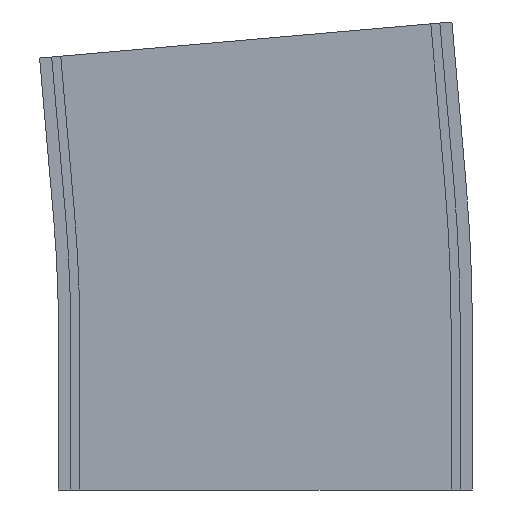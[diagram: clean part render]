
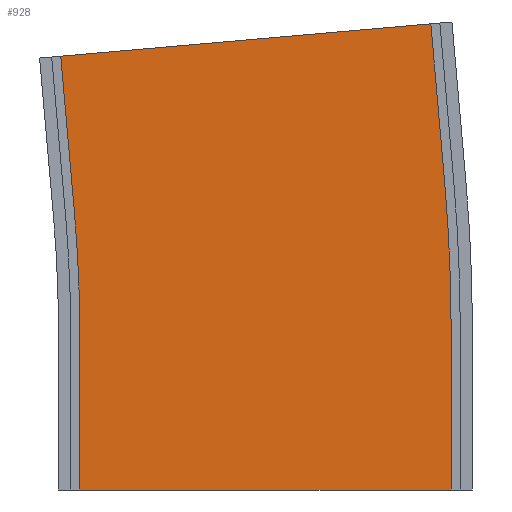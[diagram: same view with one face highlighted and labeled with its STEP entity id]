
A CAD part, left-side view. The second image highlights one B-rep face of the part: STEP entity #928.
In plain terms, the highlighted planar face has unit normal (-1, 0, 0).
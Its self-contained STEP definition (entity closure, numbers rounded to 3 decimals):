
#1 = EDGE_CURVE ( 'NONE', #549, #386, #1368, .T. ) ;
#12 = VECTOR ( 'NONE', #824, 1000. ) ;
#29 = VECTOR ( 'NONE', #670, 1000. ) ;
#32 = CARTESIAN_POINT ( 'NONE',  ( -116.25, -54.539, 153.716 ) ) ;
#62 = VECTOR ( 'NONE', #370, 1000. ) ;
#63 = ORIENTED_EDGE ( 'NONE', *, *, #664, .F. ) ;
#65 = CARTESIAN_POINT ( 'NONE',  ( -116.25, 61.25, 0. ) ) ;
#110 = ORIENTED_EDGE ( 'NONE', *, *, #1331, .T. ) ;
#119 = DIRECTION ( 'NONE',  ( 0., 0., -1. ) ) ;
#129 = VECTOR ( 'NONE', #119, 1000. ) ;
#163 = CARTESIAN_POINT ( 'NONE',  ( -116.25, -59.114, 101.416 ) ) ;
#192 = VERTEX_POINT ( 'NONE', #262 ) ;
#200 = VECTOR ( 'NONE', #1125, 1000. ) ;
#247 = CARTESIAN_POINT ( 'NONE',  ( -116.25, 500., 52.5 ) ) ;
#262 = CARTESIAN_POINT ( 'NONE',  ( -116.25, -61.25, 52.5 ) ) ;
#310 = ORIENTED_EDGE ( 'NONE', *, *, #445, .T. ) ;
#370 = DIRECTION ( 'NONE',  ( 0., -0.996, 0.087 ) ) ;
#386 = VERTEX_POINT ( 'NONE', #32 ) ;
#433 = CARTESIAN_POINT ( 'NONE',  ( -116.25, 67.495, 143.04 ) ) ;
#445 = EDGE_CURVE ( 'NONE', #1154, #507, #654, .T. ) ;
#488 = ORIENTED_EDGE ( 'NONE', *, *, #686, .F. ) ;
#495 = LINE ( 'NONE', #163, #200 ) ;
#507 = VERTEX_POINT ( 'NONE', #65 ) ;
#549 = VERTEX_POINT ( 'NONE', #433 ) ;
#556 = DIRECTION ( 'NONE',  ( 0., 0., 1. ) ) ;
#572 = LINE ( 'NONE', #725, #12 ) ;
#619 = EDGE_CURVE ( 'NONE', #1162, #549, #1166, .T. ) ;
#647 = ORIENTED_EDGE ( 'NONE', *, *, #619, .F. ) ;
#654 = LINE ( 'NONE', #684, #775 ) ;
#664 = EDGE_CURVE ( 'NONE', #192, #813, #1285, .T. ) ;
#670 = DIRECTION ( 'NONE',  ( 0., 0.087, 0.996 ) ) ;
#684 = CARTESIAN_POINT ( 'NONE',  ( -116.25, 61.25, 52.5 ) ) ;
#686 = EDGE_CURVE ( 'NONE', #1154, #1162, #1060, .T. ) ;
#725 = CARTESIAN_POINT ( 'NONE',  ( -116.25, -61.25, 0. ) ) ;
#726 = PLANE ( 'NONE',  #786 ) ;
#774 = CIRCLE ( 'NONE', #1061, 561.25 ) ;
#775 = VECTOR ( 'NONE', #999, 1000. ) ;
#786 = AXIS2_PLACEMENT_3D ( 'NONE', #827, #859, #1279 ) ;
#792 = CARTESIAN_POINT ( 'NONE',  ( -116.25, -59.114, 101.416 ) ) ;
#796 = CARTESIAN_POINT ( 'NONE',  ( -116.25, -54.539, 153.716 ) ) ;
#810 = ORIENTED_EDGE ( 'NONE', *, *, #1, .F. ) ;
#813 = VERTEX_POINT ( 'NONE', #1139 ) ;
#815 = CARTESIAN_POINT ( 'NONE',  ( -116.25, 62.92, 90.74 ) ) ;
#824 = DIRECTION ( 'NONE',  ( 0., -1., 0. ) ) ;
#827 = CARTESIAN_POINT ( 'NONE',  ( -116.25, -61.25, 52.5 ) ) ;
#854 = FACE_OUTER_BOUND ( 'NONE', #887, .T. ) ;
#859 = DIRECTION ( 'NONE',  ( 1., 0., 0. ) ) ;
#861 = ORIENTED_EDGE ( 'NONE', *, *, #968, .T. ) ;
#887 = EDGE_LOOP ( 'NONE', ( #954, #63, #861, #110, #810, #647, #488, #310 ) ) ;
#895 = DIRECTION ( 'NONE',  ( 0., 0., 1. ) ) ;
#928 = ADVANCED_FACE ( 'NONE', ( #854 ), #726, .F. ) ;
#954 = ORIENTED_EDGE ( 'NONE', *, *, #1141, .T. ) ;
#968 = EDGE_CURVE ( 'NONE', #192, #1020, #774, .T. ) ;
#973 = CARTESIAN_POINT ( 'NONE',  ( -116.25, 62.92, 90.74 ) ) ;
#983 = CARTESIAN_POINT ( 'NONE',  ( -116.25, -61.25, 52.5 ) ) ;
#999 = DIRECTION ( 'NONE',  ( 0., 0., -1. ) ) ;
#1020 = VERTEX_POINT ( 'NONE', #792 ) ;
#1060 = CIRCLE ( 'NONE', #1098, 438.75 ) ;
#1061 = AXIS2_PLACEMENT_3D ( 'NONE', #1165, #1168, #556 ) ;
#1098 = AXIS2_PLACEMENT_3D ( 'NONE', #247, #1353, #895 ) ;
#1125 = DIRECTION ( 'NONE',  ( 0., 0.087, 0.996 ) ) ;
#1137 = CARTESIAN_POINT ( 'NONE',  ( -116.25, 61.25, 52.5 ) ) ;
#1139 = CARTESIAN_POINT ( 'NONE',  ( -116.25, -61.25, 0. ) ) ;
#1141 = EDGE_CURVE ( 'NONE', #507, #813, #572, .T. ) ;
#1154 = VERTEX_POINT ( 'NONE', #1137 ) ;
#1162 = VERTEX_POINT ( 'NONE', #815 ) ;
#1165 = CARTESIAN_POINT ( 'NONE',  ( -116.25, 500., 52.5 ) ) ;
#1166 = LINE ( 'NONE', #973, #29 ) ;
#1168 = DIRECTION ( 'NONE',  ( -1., 0., 0. ) ) ;
#1279 = DIRECTION ( 'NONE',  ( 0., 1., 0. ) ) ;
#1285 = LINE ( 'NONE', #983, #129 ) ;
#1331 = EDGE_CURVE ( 'NONE', #1020, #386, #495, .T. ) ;
#1353 = DIRECTION ( 'NONE',  ( -1., 0., 0. ) ) ;
#1368 = LINE ( 'NONE', #796, #62 ) ;
